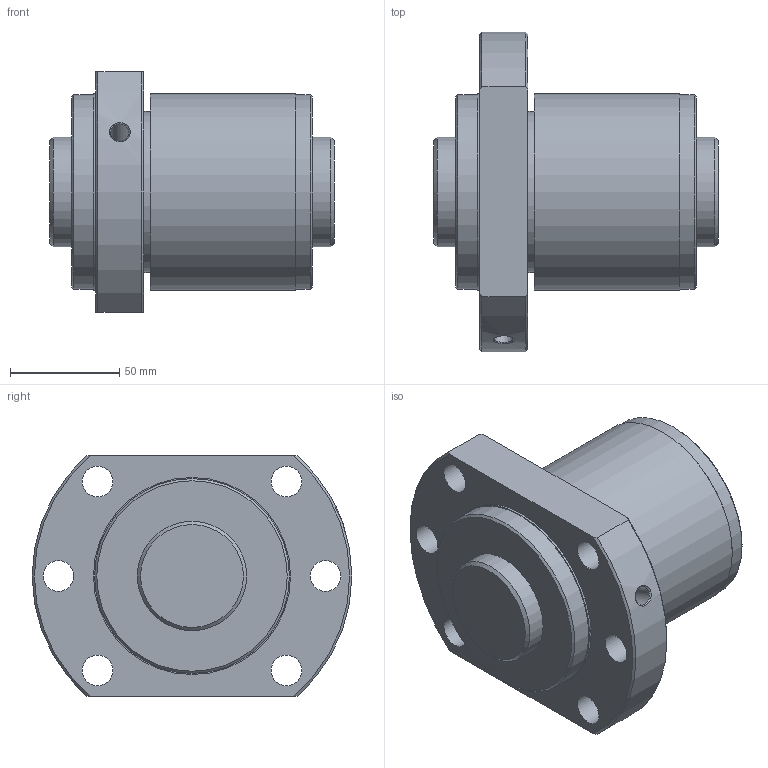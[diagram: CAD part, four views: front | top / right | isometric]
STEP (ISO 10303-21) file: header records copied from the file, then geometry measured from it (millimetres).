
FILE_DESCRIPTION(/* description */ ('STEP AP203'),/* implementation_level */ '2;1');
FILE_NAME(/* name */ 'SBK5020-7.6RRG0+130LC0(0000)',/* time_stamp */ '2024-05-28T11:20:27+02:00',/* author */ ('License CC BY-ND 4.0'),/* organization */ ('CADENAS'),/* preprocessor_version */ 'ST-DEVELOPER v19.3',/* originating_system */ 'PARTsolutions',/* authorisation */ ' ');
FILE_SCHEMA (('CONFIG_CONTROL_DESIGN'));
Length unit declared in the file: millimetre
Products named in the file (3): SBK5020-7.6RRG0+130LC0(0000); NRR000SBK5020-7.60Shaft; NRR000SBK5020-7.6Nut
Assembly tree (2 placements, depth 2):
  SBK5020-7.6RRG0+130LC0(0000)
    NRR000SBK5020-7.60Shaft
    NRR000SBK5020-7.6Nut
Bounding box: 130 x 146 x 110 mm (x, y, z)
Volume: 883348.3 mm3; surface area: 108985.9 mm2
Topology: 2 solids, 2 shells, 37 faces, 80 edges, 52 vertices
Faces by surface type: cylinder 16, plane 11, cone 10
Full cylindrical faces by diameter (mm): 8.566 x1, 14 x6, 50 x2, 73.62 x1, 89 x2, 90 x2
Entity records: 1020 total; most frequent: CARTESIAN_POINT 183, DIRECTION 168, ORIENTED_EDGE 114, AXIS2_PLACEMENT_3D 80, FACE_BOUND 77, EDGE_LOOP 76, EDGE_CURVE 57, VERTEX_POINT 50
